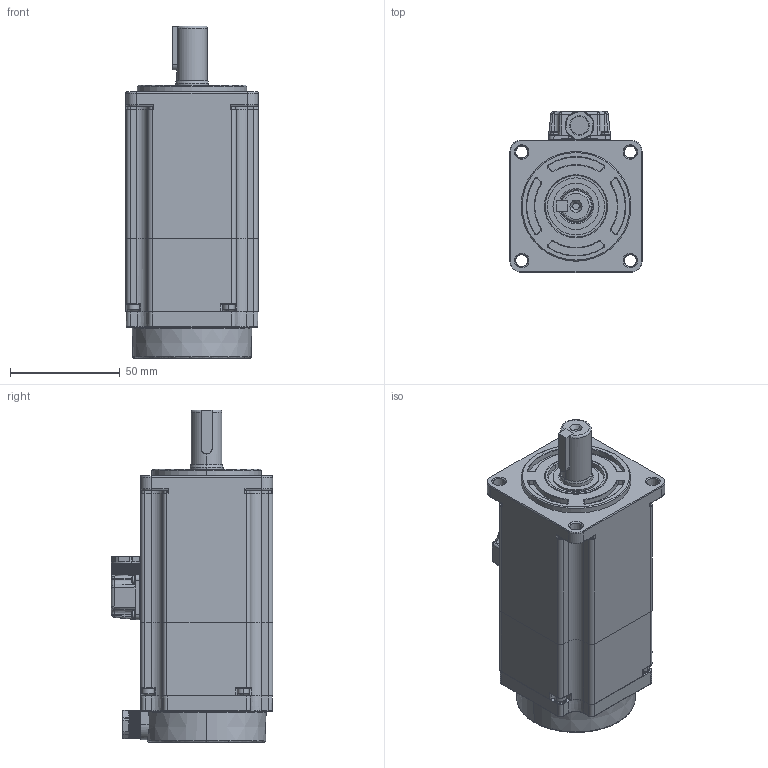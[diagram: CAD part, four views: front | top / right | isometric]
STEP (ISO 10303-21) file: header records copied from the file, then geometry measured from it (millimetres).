
FILE_DESCRIPTION (( 'STEP AP203' ), '1' );
FILE_NAME ('G3系列60ST-400W刹车电机三维图.STEP', '2021-01-22T05:25:22', ( '微软用户' ), ( '微软中国' ), 'SwSTEP 2.0', 'SolidWorks 2016', '' );
FILE_SCHEMA (( 'CONFIG_CONTROL_DESIGN' ));
Length unit declared in the file: millimetre
Products named in the file (1): G3系列60ST-400W刹车电机三维图
Bounding box: 60.2 x 73.5 x 151.3 mm (x, y, z)
Volume: 149627.1 mm3; surface area: 93014 mm2
Topology: 21 solids, 21 shells, 2971 faces, 7247 edges, 4411 vertices
Faces by surface type: plane 1622, cylinder 560, cone 489, bspline 167, torus 117, sphere 16
Entity records: 90920 total; most frequent: CARTESIAN_POINT 21433, DIRECTION 14666, ORIENTED_EDGE 14446, EDGE_CURVE 7223, AXIS2_PLACEMENT_3D 5260, VERTEX_POINT 4411, VECTOR 4146, LINE 4146
